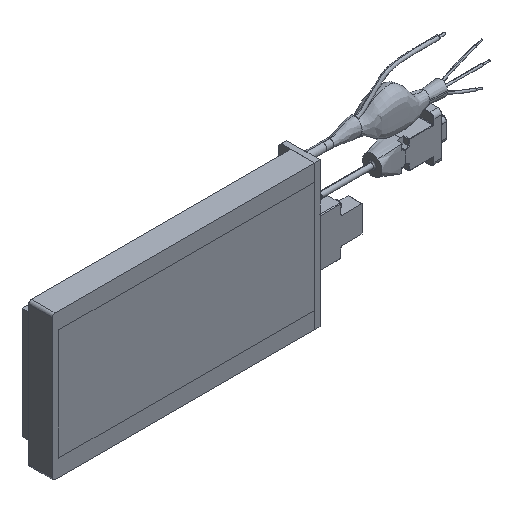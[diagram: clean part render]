
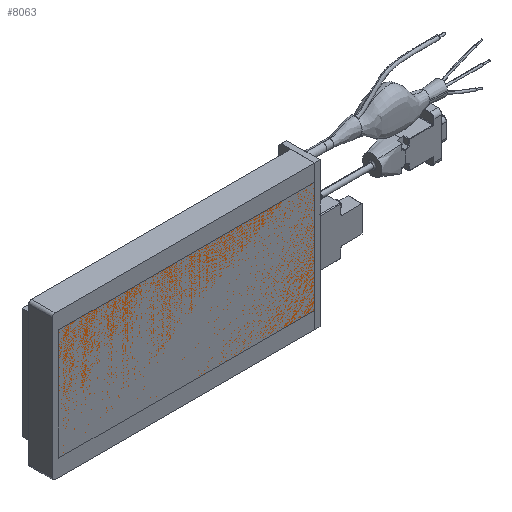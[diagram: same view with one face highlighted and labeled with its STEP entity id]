
A CAD part, isometric view. The second image highlights one B-rep face of the part: STEP entity #8063.
In plain terms, the highlighted planar face has unit normal (0, -1, 0).
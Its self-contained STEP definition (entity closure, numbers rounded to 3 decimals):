
#659 = ORIENTED_EDGE ( 'NONE', *, *, #6764, .F. ) ;
#1651 = EDGE_CURVE ( 'NONE', #4250, #13790, #9059, .T. ) ;
#1882 = VECTOR ( 'NONE', #15794, 1000. ) ;
#2137 = CARTESIAN_POINT ( 'NONE',  ( 0., 13., 0. ) ) ;
#2736 = ORIENTED_EDGE ( 'NONE', *, *, #1651, .F. ) ;
#3111 = CARTESIAN_POINT ( 'NONE',  ( 0., 13., 0. ) ) ;
#3437 = LINE ( 'NONE', #2137, #1882 ) ;
#4250 = VERTEX_POINT ( 'NONE', #6617 ) ;
#4955 = VECTOR ( 'NONE', #5529, 1000. ) ;
#5529 = DIRECTION ( 'NONE',  ( 0., 0., 1. ) ) ;
#6617 = CARTESIAN_POINT ( 'NONE',  ( 0., 13., 0. ) ) ;
#6647 = VERTEX_POINT ( 'NONE', #13079 ) ;
#6713 = EDGE_CURVE ( 'NONE', #8143, #4250, #3437, .T. ) ;
#6764 = EDGE_CURVE ( 'NONE', #6647, #8143, #14673, .T. ) ;
#6851 = DIRECTION ( 'NONE',  ( 0., 1., 0. ) ) ;
#6885 = CARTESIAN_POINT ( 'NONE',  ( 0., 13., 80. ) ) ;
#7703 = VECTOR ( 'NONE', #9654, 1000. ) ;
#8063 = ADVANCED_FACE ( 'NONE', ( #14586 ), #10540, .F. ) ;
#8143 = VERTEX_POINT ( 'NONE', #12013 ) ;
#8512 = ORIENTED_EDGE ( 'NONE', *, *, #11700, .T. ) ;
#9059 = LINE ( 'NONE', #11729, #4955 ) ;
#9654 = DIRECTION ( 'NONE',  ( 0., 0., -1. ) ) ;
#10373 = ORIENTED_EDGE ( 'NONE', *, *, #6713, .F. ) ;
#10540 = PLANE ( 'NONE',  #14686 ) ;
#10892 = CARTESIAN_POINT ( 'NONE',  ( 184.204, 13., 80. ) ) ;
#11154 = DIRECTION ( 'NONE',  ( -1., 0., 0. ) ) ;
#11530 = EDGE_LOOP ( 'NONE', ( #659, #8512, #2736, #10373 ) ) ;
#11700 = EDGE_CURVE ( 'NONE', #6647, #13790, #13145, .T. ) ;
#11729 = CARTESIAN_POINT ( 'NONE',  ( 0., 13., 0. ) ) ;
#12013 = CARTESIAN_POINT ( 'NONE',  ( 184.204, 13., 0. ) ) ;
#12345 = VECTOR ( 'NONE', #11154, 1000. ) ;
#12351 = CARTESIAN_POINT ( 'NONE',  ( 0., 13., 80. ) ) ;
#13079 = CARTESIAN_POINT ( 'NONE',  ( 184.204, 13., 80. ) ) ;
#13145 = LINE ( 'NONE', #12351, #12345 ) ;
#13790 = VERTEX_POINT ( 'NONE', #6885 ) ;
#14586 = FACE_OUTER_BOUND ( 'NONE', #11530, .T. ) ;
#14673 = LINE ( 'NONE', #10892, #7703 ) ;
#14686 = AXIS2_PLACEMENT_3D ( 'NONE', #3111, #6851, #15511 ) ;
#15511 = DIRECTION ( 'NONE',  ( 0., 0., 1. ) ) ;
#15794 = DIRECTION ( 'NONE',  ( -1., 0., 0. ) ) ;
